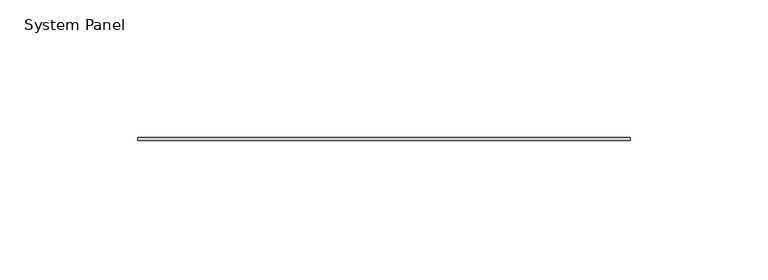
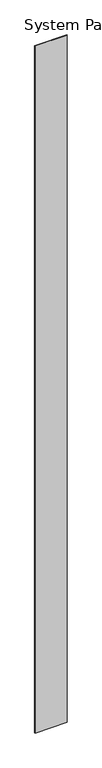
"""IFC4 building model written with IfcOpenShell, lengths in millimetres: plate geometry, System Panel : Stratco_Hiland_Tray."""

from ifc_helpers import new_model, si_unit, origin, origin_with_axes, place, context, project, spatial, polyline, outline, extrude, source, transform, mapped, element, save


def system_panel_01def139(model_context):
    return source(origin(), model_context, "Body", "SweptSolid", [
        extrude(outline(polyline([(89.2691803, 2.5), (-89.2691803, 2.5), (-89.2691803, 3.5), (89.2691803, 3.5), (89.2691803, 2.5)])), origin_with_axes(), (0.0, 0.0, 1.0), 4000.0),
    ])


if __name__ == "__main__":
    model = new_model("IFC4")
    model_context = context("Model", 3, world=origin())
    ifc_project = project(units=[si_unit("LENGTHUNIT", "METRE", prefix="MILLI")], contexts=[model_context])
    site = spatial("IfcSite", under=ifc_project)
    building = spatial("IfcBuilding", under=site)
    placement = place(None, origin())
    system_panel_shape = system_panel_01def139(model_context)
    element("IfcPlate", 1, ObjectType="System Panel : Stratco_Hiland_Tray", at=placement, inside=building, context=model_context, shape_type="MappedRepresentation", body=[
        mapped(system_panel_shape, transform((0.0, 0.0, 0.0), x_axis=(1.0, 0.0, 0.0), y_axis=(0.0, 1.0, 0.0), z_axis=(0.0, 0.0, 1.0))),
    ])
    save(model, "model.ifc")
